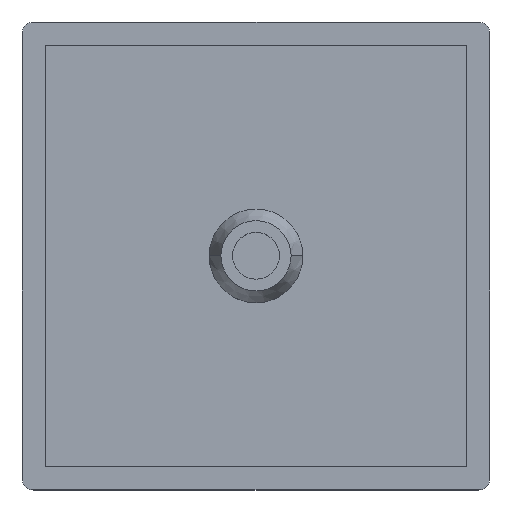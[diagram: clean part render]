
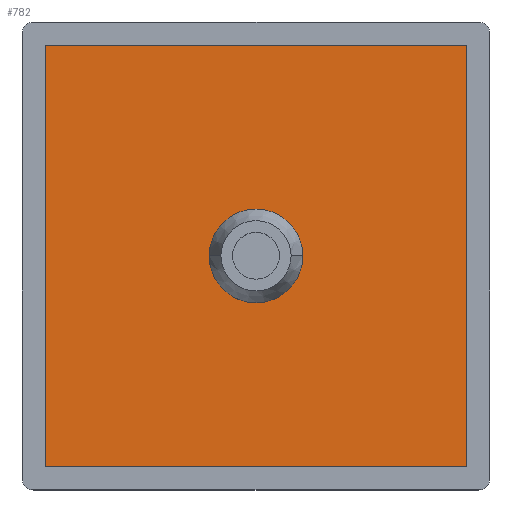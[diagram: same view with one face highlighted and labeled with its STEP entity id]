
A CAD part, top view. The second image highlights one B-rep face of the part: STEP entity #782.
In plain terms, the highlighted planar face has unit normal (0, 0, 1).
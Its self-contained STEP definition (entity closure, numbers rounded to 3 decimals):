
#3 = ORIENTED_EDGE ( 'NONE', *, *, #160, .F. ) ;
#6 = CIRCLE ( 'NONE', #464, 2. ) ;
#10 = VECTOR ( 'NONE', #254, 1000. ) ;
#18 = CARTESIAN_POINT ( 'NONE',  ( 0., 0., -0.25 ) ) ;
#43 = CARTESIAN_POINT ( 'NONE',  ( 2., 0., -0.25 ) ) ;
#45 = VECTOR ( 'NONE', #106, 1000. ) ;
#62 = CARTESIAN_POINT ( 'NONE',  ( -10., -9., -0.25 ) ) ;
#79 = ORIENTED_EDGE ( 'NONE', *, *, #406, .T. ) ;
#87 = VERTEX_POINT ( 'NONE', #366 ) ;
#106 = DIRECTION ( 'NONE',  ( 0., -1., 0. ) ) ;
#160 = EDGE_CURVE ( 'NONE', #87, #528, #397, .T. ) ;
#167 = LINE ( 'NONE', #62, #221 ) ;
#183 = DIRECTION ( 'NONE',  ( 1., 0., 0. ) ) ;
#191 = DIRECTION ( 'NONE',  ( 1., 0., 0. ) ) ;
#212 = CARTESIAN_POINT ( 'NONE',  ( -9., 10., -0.25 ) ) ;
#221 = VECTOR ( 'NONE', #1002, 1000. ) ;
#253 = EDGE_CURVE ( 'NONE', #87, #703, #318, .T. ) ;
#254 = DIRECTION ( 'NONE',  ( 0., -1., 0. ) ) ;
#263 = CIRCLE ( 'NONE', #605, 2. ) ;
#270 = ORIENTED_EDGE ( 'NONE', *, *, #352, .F. ) ;
#289 = CARTESIAN_POINT ( 'NONE',  ( 0., 9., -0.25 ) ) ;
#298 = DIRECTION ( 'NONE',  ( 0., 0., 1. ) ) ;
#300 = CARTESIAN_POINT ( 'NONE',  ( -2., 0., -0.25 ) ) ;
#318 = LINE ( 'NONE', #212, #45 ) ;
#352 = EDGE_CURVE ( 'NONE', #535, #376, #263, .T. ) ;
#365 = CARTESIAN_POINT ( 'NONE',  ( 9., 0., -0.25 ) ) ;
#366 = CARTESIAN_POINT ( 'NONE',  ( -9., 9., -0.25 ) ) ;
#376 = VERTEX_POINT ( 'NONE', #300 ) ;
#397 = LINE ( 'NONE', #289, #998 ) ;
#405 = AXIS2_PLACEMENT_3D ( 'NONE', #408, #298, #191 ) ;
#406 = EDGE_CURVE ( 'NONE', #703, #775, #167, .T. ) ;
#408 = CARTESIAN_POINT ( 'NONE',  ( 0., 0., -0.25 ) ) ;
#409 = ORIENTED_EDGE ( 'NONE', *, *, #253, .T. ) ;
#437 = DIRECTION ( 'NONE',  ( 1., 0., 0. ) ) ;
#464 = AXIS2_PLACEMENT_3D ( 'NONE', #18, #962, #856 ) ;
#477 = CARTESIAN_POINT ( 'NONE',  ( 9., 9., -0.25 ) ) ;
#488 = CARTESIAN_POINT ( 'NONE',  ( -9., -9., -0.25 ) ) ;
#498 = EDGE_LOOP ( 'NONE', ( #270, #569 ) ) ;
#522 = PLANE ( 'NONE',  #405 ) ;
#528 = VERTEX_POINT ( 'NONE', #477 ) ;
#533 = EDGE_CURVE ( 'NONE', #528, #775, #581, .T. ) ;
#535 = VERTEX_POINT ( 'NONE', #43 ) ;
#549 = DIRECTION ( 'NONE',  ( 0., 0., 1. ) ) ;
#569 = ORIENTED_EDGE ( 'NONE', *, *, #999, .F. ) ;
#581 = LINE ( 'NONE', #365, #10 ) ;
#605 = AXIS2_PLACEMENT_3D ( 'NONE', #654, #549, #437 ) ;
#654 = CARTESIAN_POINT ( 'NONE',  ( 0., 0., -0.25 ) ) ;
#684 = ORIENTED_EDGE ( 'NONE', *, *, #533, .F. ) ;
#703 = VERTEX_POINT ( 'NONE', #488 ) ;
#739 = FACE_BOUND ( 'NONE', #498, .T. ) ;
#775 = VERTEX_POINT ( 'NONE', #840 ) ;
#782 = ADVANCED_FACE ( 'NONE', ( #739, #793 ), #522, .T. ) ;
#793 = FACE_OUTER_BOUND ( 'NONE', #928, .T. ) ;
#840 = CARTESIAN_POINT ( 'NONE',  ( 9., -9., -0.25 ) ) ;
#856 = DIRECTION ( 'NONE',  ( 1., 0., 0. ) ) ;
#928 = EDGE_LOOP ( 'NONE', ( #409, #79, #684, #3 ) ) ;
#962 = DIRECTION ( 'NONE',  ( 0., 0., 1. ) ) ;
#998 = VECTOR ( 'NONE', #183, 1000. ) ;
#999 = EDGE_CURVE ( 'NONE', #376, #535, #6, .T. ) ;
#1002 = DIRECTION ( 'NONE',  ( 1., 0., 0. ) ) ;
